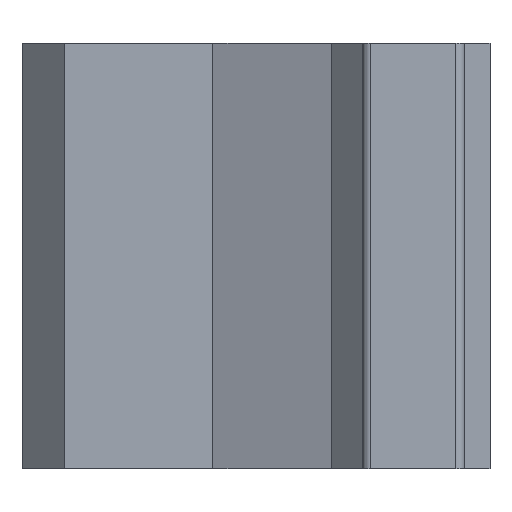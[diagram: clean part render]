
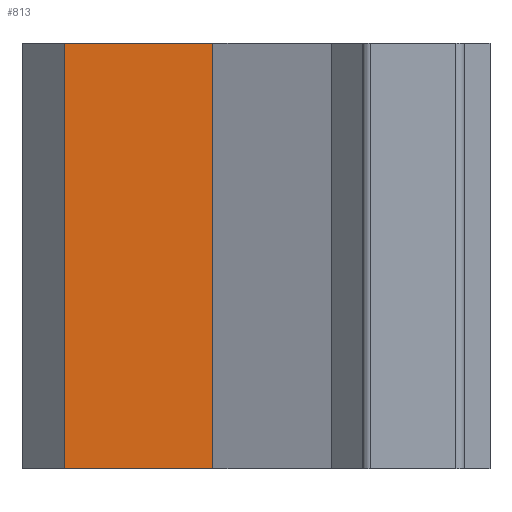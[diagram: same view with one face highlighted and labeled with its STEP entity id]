
A CAD part, front view. The second image highlights one B-rep face of the part: STEP entity #813.
In plain terms, the highlighted planar face has unit normal (0, -1, 0).
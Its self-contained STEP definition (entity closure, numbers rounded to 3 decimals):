
#18 = VERTEX_POINT ( 'NONE', #649 ) ;
#31 = LINE ( 'NONE', #840, #1155 ) ;
#65 = CARTESIAN_POINT ( 'NONE',  ( -23.5, 36., 25. ) ) ;
#80 = DIRECTION ( 'NONE',  ( 0., 0., 1. ) ) ;
#115 = LINE ( 'NONE', #1102, #1010 ) ;
#120 = LINE ( 'NONE', #65, #466 ) ;
#200 = ORIENTED_EDGE ( 'NONE', *, *, #420, .F. ) ;
#248 = EDGE_LOOP ( 'NONE', ( #1045, #200, #511, #292 ) ) ;
#292 = ORIENTED_EDGE ( 'NONE', *, *, #626, .T. ) ;
#331 = EDGE_CURVE ( 'NONE', #1090, #450, #115, .T. ) ;
#375 = CARTESIAN_POINT ( 'NONE',  ( -14.778, 36., 25. ) ) ;
#388 = AXIS2_PLACEMENT_3D ( 'NONE', #635, #1152, #80 ) ;
#420 = EDGE_CURVE ( 'NONE', #18, #450, #966, .T. ) ;
#450 = VERTEX_POINT ( 'NONE', #671 ) ;
#466 = VECTOR ( 'NONE', #1135, 1000. ) ;
#467 = EDGE_CURVE ( 'NONE', #531, #18, #31, .T. ) ;
#511 = ORIENTED_EDGE ( 'NONE', *, *, #467, .F. ) ;
#531 = VERTEX_POINT ( 'NONE', #688 ) ;
#585 = CARTESIAN_POINT ( 'NONE',  ( -23.5, 36., 0. ) ) ;
#626 = EDGE_CURVE ( 'NONE', #531, #1090, #120, .T. ) ;
#635 = CARTESIAN_POINT ( 'NONE',  ( -23.5, 36., 25. ) ) ;
#649 = CARTESIAN_POINT ( 'NONE',  ( -14.778, 36., 25. ) ) ;
#671 = CARTESIAN_POINT ( 'NONE',  ( -14.778, 36., 0. ) ) ;
#688 = CARTESIAN_POINT ( 'NONE',  ( -23.5, 36., 25. ) ) ;
#691 = FACE_OUTER_BOUND ( 'NONE', #248, .T. ) ;
#723 = PLANE ( 'NONE',  #388 ) ;
#813 = ADVANCED_FACE ( 'NONE', ( #691 ), #723, .F. ) ;
#840 = CARTESIAN_POINT ( 'NONE',  ( -23.5, 36., 25. ) ) ;
#859 = DIRECTION ( 'NONE',  ( 1., 0., 0. ) ) ;
#966 = LINE ( 'NONE', #375, #1138 ) ;
#1001 = DIRECTION ( 'NONE',  ( 1., 0., 0. ) ) ;
#1010 = VECTOR ( 'NONE', #1001, 1000. ) ;
#1045 = ORIENTED_EDGE ( 'NONE', *, *, #331, .T. ) ;
#1090 = VERTEX_POINT ( 'NONE', #585 ) ;
#1093 = DIRECTION ( 'NONE',  ( 0., 0., -1. ) ) ;
#1102 = CARTESIAN_POINT ( 'NONE',  ( -23.5, 36., 0. ) ) ;
#1135 = DIRECTION ( 'NONE',  ( 0., 0., -1. ) ) ;
#1138 = VECTOR ( 'NONE', #1093, 1000. ) ;
#1152 = DIRECTION ( 'NONE',  ( 0., 1., 0. ) ) ;
#1155 = VECTOR ( 'NONE', #859, 1000. ) ;
